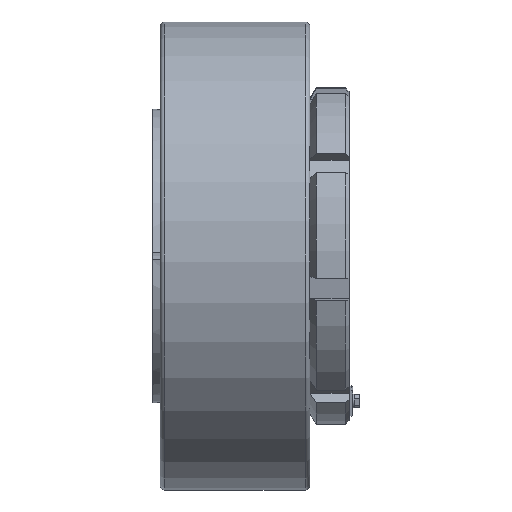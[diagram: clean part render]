
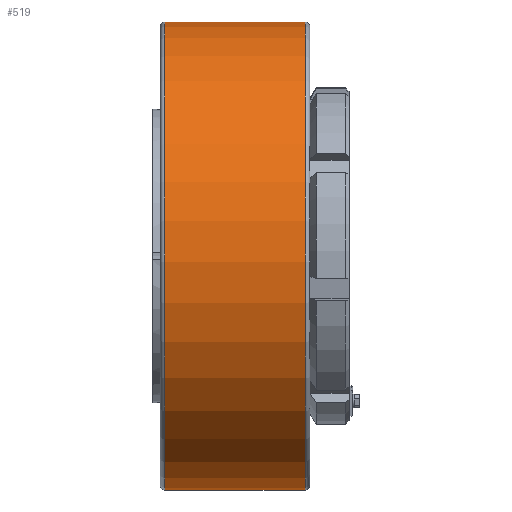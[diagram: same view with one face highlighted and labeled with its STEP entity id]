
A CAD part, front view. The second image highlights one B-rep face of the part: STEP entity #519.
In plain terms, the highlighted cylindrical face has radius 250 mm (diameter 500 mm), a full revolution.
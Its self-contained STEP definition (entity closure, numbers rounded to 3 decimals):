
#519 = ADVANCED_FACE( '', ( #1166, #1167 ), #1168, .T. );
#1166 = FACE_OUTER_BOUND( '', #1939, .T. );
#1167 = FACE_OUTER_BOUND( '', #1940, .T. );
#1168 = CYLINDRICAL_SURFACE( '', #1941, 250. );
#1939 = EDGE_LOOP( '', ( #4071 ) );
#1940 = EDGE_LOOP( '', ( #4072 ) );
#1941 = AXIS2_PLACEMENT_3D( '', #4073, #4074, #4075 );
#4071 = ORIENTED_EDGE( '', *, *, #5546, .T. );
#4072 = ORIENTED_EDGE( '', *, *, #5545, .F. );
#4073 = CARTESIAN_POINT( '', ( 0., 0., 0. ) );
#4074 = DIRECTION( '', ( -1., 0., 0. ) );
#4075 = DIRECTION( '', ( 0., 0., -1. ) );
#5545 = EDGE_CURVE( '', #6814, #6814, #6815, .T. );
#5546 = EDGE_CURVE( '', #6816, #6816, #6817, .T. );
#6814 = VERTEX_POINT( '', #8863 );
#6815 = CIRCLE( '', #8864, 250. );
#6816 = VERTEX_POINT( '', #8865 );
#6817 = CIRCLE( '', #8866, 250. );
#8863 = CARTESIAN_POINT( '', ( -55., 0., -250. ) );
#8864 = AXIS2_PLACEMENT_3D( '', #10431, #10432, #10433 );
#8865 = CARTESIAN_POINT( '', ( -205., 0., -250. ) );
#8866 = AXIS2_PLACEMENT_3D( '', #10434, #10435, #10436 );
#10431 = CARTESIAN_POINT( '', ( -55., 0., 0. ) );
#10432 = DIRECTION( '', ( 1., 0., 0. ) );
#10433 = DIRECTION( '', ( 0., 0., -1. ) );
#10434 = CARTESIAN_POINT( '', ( -205., 0., 0. ) );
#10435 = DIRECTION( '', ( 1., 0., 0. ) );
#10436 = DIRECTION( '', ( 0., 0., -1. ) );
